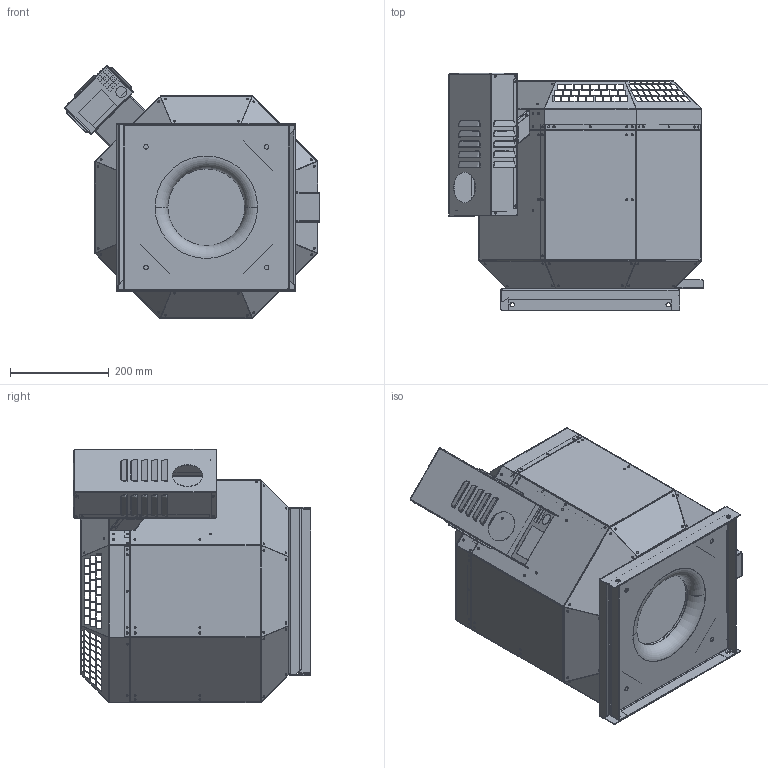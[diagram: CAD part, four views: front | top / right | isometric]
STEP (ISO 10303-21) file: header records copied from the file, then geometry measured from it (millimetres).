
FILE_DESCRIPTION (( 'STEP AP203' ), '1' );
FILE_NAME ('144876-01_DVN250D230_step.step', '2018-07-03T05:36:38', ( '' ), ( '' ), 'SwSTEP 2.0', 'SolidWorks 2017', '' );
FILE_SCHEMA (( 'CONFIG_CONTROL_DESIGN' ));
Products named in the file (1): 144876-01_DVN250D230_step
Bounding box: 517.71 x 482 x 513.88 mm (x, y, z)
Surface area: 2198464.7 mm2 (no closed solid volume)
Topology: 0 solids, 30 shells, 1548 faces, 6731 edges, 4827 vertices
Faces by surface type: plane 1034, cylinder 415, bspline 95, torus 4
Entity records: 87033 total; most frequent: CARTESIAN_POINT 32673, DIRECTION 10396, ORIENTED_EDGE 9926, EDGE_CURVE 6731, LINE 4924, VECTOR 4924, VERTEX_POINT 4827, AXIS2_PLACEMENT_3D 2736
